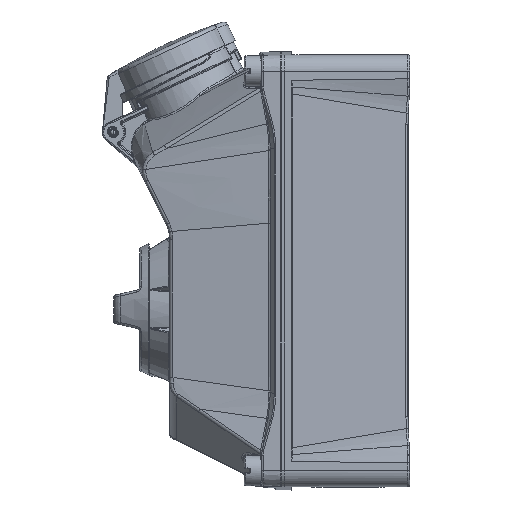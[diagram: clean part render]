
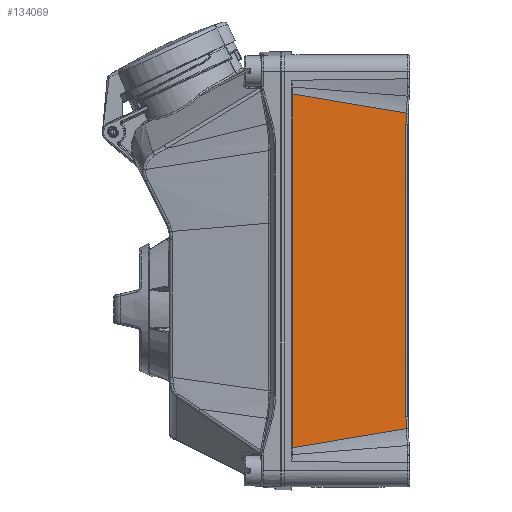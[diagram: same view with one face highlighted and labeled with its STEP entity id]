
A CAD part, left-side view. The second image highlights one B-rep face of the part: STEP entity #134069.
In plain terms, the highlighted free-form (B-spline) face has degree [5, 5] with [6, 6] control points.
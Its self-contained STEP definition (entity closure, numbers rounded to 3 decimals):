
#31948=CARTESIAN_POINT('',(-54.921,0.638,
-82.079));
#31949=CARTESIAN_POINT('',(-55.229,5.784,
-82.813));
#31950=CARTESIAN_POINT('',(-55.815,15.586,
-84.24));
#31951=CARTESIAN_POINT('',(-56.603,28.769,
-86.267));
#31952=CARTESIAN_POINT('',(-57.308,40.559,
-88.217));
#31953=CARTESIAN_POINT('',(-57.933,51.017,
-90.124));
#31954=CARTESIAN_POINT('',(-58.301,57.168,
-91.399));
#31955=CARTESIAN_POINT('',(-58.472,60.031,
-92.044));
#31957=DIRECTION('',(0.,0.,1.));
#31958=VECTOR('',#31957,184.088);
#31959=CARTESIAN_POINT('',(-58.472,60.031,
-92.044));
#31960=LINE('6332',#31959,#31958);
#31961=CARTESIAN_POINT('',(-58.472,60.031,
92.044));
#31962=CARTESIAN_POINT('',(-58.24,56.145,
91.169));
#31963=CARTESIAN_POINT('',(-57.743,47.836,
89.496));
#31964=CARTESIAN_POINT('',(-56.904,33.805,
87.066));
#31965=CARTESIAN_POINT('',(-55.97,18.186,
84.621));
#31966=CARTESIAN_POINT('',(-55.282,6.668,
82.939));
#31967=CARTESIAN_POINT('',(-54.921,0.638,
82.079));
#31969=CARTESIAN_POINT('',(-54.921,0.638,
82.079));
#31970=CARTESIAN_POINT('',(-54.923,0.671,
81.406));
#31971=CARTESIAN_POINT('',(-54.927,0.739,
80.061));
#31972=CARTESIAN_POINT('',(-54.933,0.839,
78.043));
#31973=CARTESIAN_POINT('',(-54.937,0.907,
76.698));
#31974=CARTESIAN_POINT('',(-54.939,0.94,
76.025));
#31976=DIRECTION('',(0.,0.,1.));
#31977=VECTOR('',#31976,152.05);
#31978=CARTESIAN_POINT('',(-54.939,0.94,
-76.025));
#31979=LINE('6391',#31978,#31977);
#31980=CARTESIAN_POINT('',(-54.939,0.94,
-76.025));
#31981=CARTESIAN_POINT('',(-54.937,0.907,
-76.698));
#31982=CARTESIAN_POINT('',(-54.933,0.839,
-78.043));
#31983=CARTESIAN_POINT('',(-54.927,0.739,
-80.061));
#31984=CARTESIAN_POINT('',(-54.923,0.671,
-81.406));
#31985=CARTESIAN_POINT('',(-54.921,0.638,
-82.079));
#59187=VERTEX_POINT('',#31948);
#59188=VERTEX_POINT('',#31955);
#59191=VERTEX_POINT('',#31961);
#59192=VERTEX_POINT('',#31967);
#59999=VERTEX_POINT('',#31974);
#60005=CARTESIAN_POINT('',(-54.939,0.94,
-76.025));
#60006=VERTEX_POINT('',#60005);
#134019=CARTESIAN_POINT('',(-54.883,0.,-86.5));
#134020=CARTESIAN_POINT('',(-55.606,12.1,-87.98));
#134021=CARTESIAN_POINT('',(-56.33,24.2,-89.46));
#134022=CARTESIAN_POINT('',(-57.053,36.3,-90.94));
#134023=CARTESIAN_POINT('',(-57.777,48.4,-92.42));
#134024=CARTESIAN_POINT('',(-58.5,60.5,-93.9));
#134025=CARTESIAN_POINT('',(-54.883,0.,-51.9));
#134026=CARTESIAN_POINT('',(-55.606,12.1,-52.788));
#134027=CARTESIAN_POINT('',(-56.33,24.2,-53.676));
#134028=CARTESIAN_POINT('',(-57.053,36.3,-54.564));
#134029=CARTESIAN_POINT('',(-57.777,48.4,-55.452));
#134030=CARTESIAN_POINT('',(-58.5,60.5,-56.34));
#134031=CARTESIAN_POINT('',(-54.883,0.,-17.3));
#134032=CARTESIAN_POINT('',(-55.606,12.1,-17.596));
#134033=CARTESIAN_POINT('',(-56.33,24.2,-17.892));
#134034=CARTESIAN_POINT('',(-57.053,36.3,-18.188));
#134035=CARTESIAN_POINT('',(-57.777,48.4,-18.484));
#134036=CARTESIAN_POINT('',(-58.5,60.5,-18.78));
#134037=CARTESIAN_POINT('',(-54.883,0.,17.3));
#134038=CARTESIAN_POINT('',(-55.606,12.1,17.596));
#134039=CARTESIAN_POINT('',(-56.33,24.2,17.892));
#134040=CARTESIAN_POINT('',(-57.053,36.3,18.188));
#134041=CARTESIAN_POINT('',(-57.777,48.4,18.484));
#134042=CARTESIAN_POINT('',(-58.5,60.5,18.78));
#134043=CARTESIAN_POINT('',(-54.883,0.,51.9));
#134044=CARTESIAN_POINT('',(-55.606,12.1,52.788));
#134045=CARTESIAN_POINT('',(-56.33,24.2,53.676));
#134046=CARTESIAN_POINT('',(-57.053,36.3,54.564));
#134047=CARTESIAN_POINT('',(-57.777,48.4,55.452));
#134048=CARTESIAN_POINT('',(-58.5,60.5,56.34));
#134049=CARTESIAN_POINT('',(-54.883,0.,86.5));
#134050=CARTESIAN_POINT('',(-55.606,12.1,87.98));
#134051=CARTESIAN_POINT('',(-56.33,24.2,89.46));
#134052=CARTESIAN_POINT('',(-57.053,36.3,90.94));
#134053=CARTESIAN_POINT('',(-57.777,48.4,92.42));
#134054=CARTESIAN_POINT('',(-58.5,60.5,93.9));
#134055=B_SPLINE_SURFACE_WITH_KNOTS('48',5,5,((#134019,#134020,#134021,#134022,
#134023,#134024),(#134025,#134026,#134027,#134028,#134029,#134030),(#134031,
#134032,#134033,#134034,#134035,#134036),(#134037,#134038,#134039,#134040,
#134041,#134042),(#134043,#134044,#134045,#134046,#134047,#134048),(#134049,
#134050,#134051,#134052,#134053,#134054)),.UNSPECIFIED.,.F.,.F.,.F.,(6,6),(6,6),
(0.,1.),(0.,1.),.UNSPECIFIED.);
#134056=ORIENTED_EDGE('5372',*,*,#134002,.T.);
#134058=ORIENTED_EDGE('6332',*,*,#134057,.T.);
#134060=ORIENTED_EDGE('5374',*,*,#134059,.T.);
#134062=ORIENTED_EDGE('6385',*,*,#134061,.T.);
#134064=ORIENTED_EDGE('6391',*,*,#134063,.F.);
#134066=ORIENTED_EDGE('6398',*,*,#134065,.T.);
#134067=EDGE_LOOP('48',(#134056,#134058,#134060,#134062,#134064,#134066));
#134068=FACE_OUTER_BOUND('48',#134067,.F.);
#31956=B_SPLINE_CURVE_WITH_KNOTS('5372',3,(#31948,#31949,#31950,#31951,#31952,
#31953,#31954,#31955),.UNSPECIFIED.,.F.,.F.,(4,1,1,1,1,4),(0.,0.2,0.4,
0.6,0.8,1.),.UNSPECIFIED.);
#31968=B_SPLINE_CURVE_WITH_KNOTS('5374',3,(#31961,#31962,#31963,#31964,#31965,
#31966,#31967),.UNSPECIFIED.,.F.,.F.,(4,1,1,1,4),(0.,0.25,0.5,0.75,
1.),.UNSPECIFIED.);
#31975=B_SPLINE_CURVE_WITH_KNOTS('6385',3,(#31969,#31970,#31971,#31972,#31973,
#31974),.UNSPECIFIED.,.F.,.F.,(4,1,1,4),(0.,0.333,
0.667,1.),.UNSPECIFIED.);
#31986=B_SPLINE_CURVE_WITH_KNOTS('6398',3,(#31980,#31981,#31982,#31983,#31984,
#31985),.UNSPECIFIED.,.F.,.F.,(4,1,1,4),(0.,0.333,
0.667,1.),.UNSPECIFIED.);
#134002=EDGE_CURVE('5372',#59187,#59188,#31956,.T.);
#134057=EDGE_CURVE('6332',#59188,#59191,#31960,.T.);
#134059=EDGE_CURVE('5374',#59191,#59192,#31968,.T.);
#134061=EDGE_CURVE('6385',#59192,#59999,#31975,.T.);
#134063=EDGE_CURVE('6391',#60006,#59999,#31979,.T.);
#134065=EDGE_CURVE('6398',#60006,#59187,#31986,.T.);
#134069=ADVANCED_FACE('48',(#134068),#134055,.T.);
